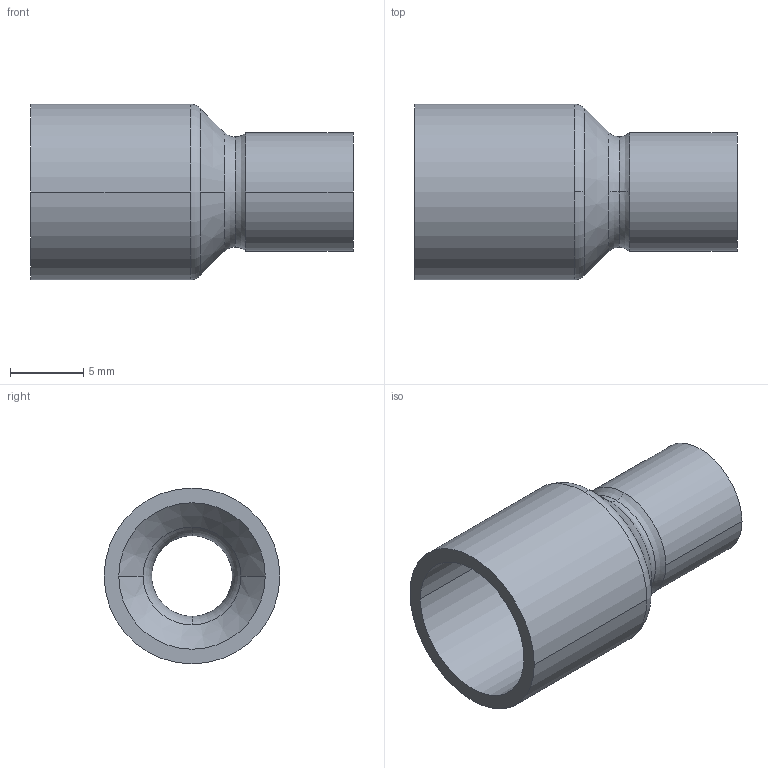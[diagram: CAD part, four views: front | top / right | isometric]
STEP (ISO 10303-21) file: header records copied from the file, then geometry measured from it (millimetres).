
FILE_DESCRIPTION((''),'2;1');
FILE_NAME('G:\Technics\CAD\Bauteile\Serie 15243\15243126.stp','2005-10-21T12:49:29',('boden'),(''),'Autodesk Inventor 8','Autodesk Inventor 8','');
FILE_SCHEMA(('AUTOMOTIVE_DESIGN { 1 0 10303 214 1 1 1 1 }'));
Length unit declared in the file: millimetre
Products named in the file (1): 15243126
Bounding box: 22 x 12 x 12 mm (x, y, z)
Volume: 661.3 mm3; surface area: 1379.6 mm2
Topology: 1 solids, 1 shells, 24 faces, 60 edges, 38 vertices
Faces by surface type: cylinder 8, torus 6, bspline 4, cone 4, plane 2
Entity records: 931 total; most frequent: CARTESIAN_POINT 299, DIRECTION 150, ORIENTED_EDGE 120, AXIS2_PLACEMENT_3D 69, EDGE_CURVE 60, CIRCLE 48, VERTEX_POINT 38, EDGE_LOOP 26
